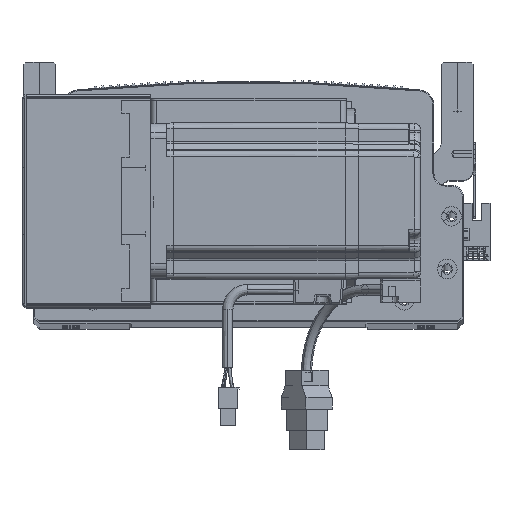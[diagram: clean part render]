
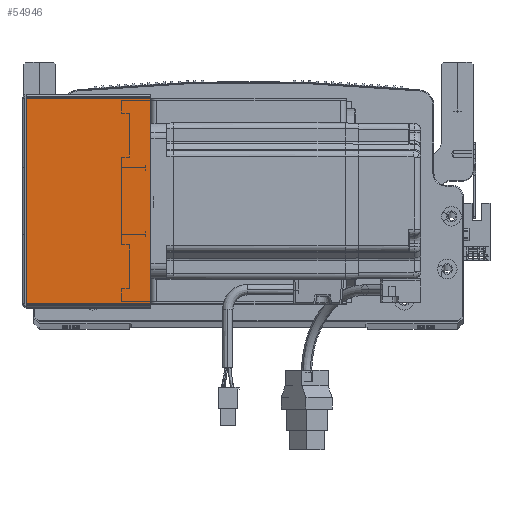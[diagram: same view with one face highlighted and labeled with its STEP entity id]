
A CAD part, top view. The second image highlights one B-rep face of the part: STEP entity #54946.
In plain terms, the highlighted planar face has unit normal (0, 0, 1) as drawn and (0, 0, -1) by its records, which use the part's own axes.
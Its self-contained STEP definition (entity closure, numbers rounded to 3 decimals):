
#722 = DIRECTION ( 'NONE',  ( 1., 0., 0. ) ) ;
#2383 = VERTEX_POINT ( 'NONE', #27641 ) ;
#8895 = EDGE_CURVE ( 'NONE', #34564, #14313, #34321, .T. ) ;
#14313 = VERTEX_POINT ( 'NONE', #86097 ) ;
#14400 = ORIENTED_EDGE ( 'NONE', *, *, #56862, .T. ) ;
#20928 = EDGE_CURVE ( 'NONE', #14313, #2383, #39896, .T. ) ;
#21456 = VECTOR ( 'NONE', #47041, 1000. ) ;
#22317 = DIRECTION ( 'NONE',  ( 0., 0., 1. ) ) ;
#25545 = CARTESIAN_POINT ( 'NONE',  ( 0., 0.707, -205.5 ) ) ;
#26107 = CARTESIAN_POINT ( 'NONE',  ( 64.5, 105.293, -205.5 ) ) ;
#27641 = CARTESIAN_POINT ( 'NONE',  ( 64.5, 0.707, -205.5 ) ) ;
#34321 = LINE ( 'NONE', #61976, #67868 ) ;
#34564 = VERTEX_POINT ( 'NONE', #58866 ) ;
#36434 = AXIS2_PLACEMENT_3D ( 'NONE', #63794, #22317, #77653 ) ;
#39896 = LINE ( 'NONE', #25545, #21456 ) ;
#42367 = FACE_OUTER_BOUND ( 'NONE', #50918, .T. ) ;
#46423 = VECTOR ( 'NONE', #68624, 1000. ) ;
#47041 = DIRECTION ( 'NONE',  ( 1., 0., 0. ) ) ;
#47589 = CARTESIAN_POINT ( 'NONE',  ( 64.5, 0., -205.5 ) ) ;
#49790 = CARTESIAN_POINT ( 'NONE',  ( 0., 105.293, -205.5 ) ) ;
#50918 = EDGE_LOOP ( 'NONE', ( #89702, #77690, #14400, #77674 ) ) ;
#54946 = ADVANCED_FACE ( 'NONE', ( #42367 ), #78528, .F. ) ;
#56862 = EDGE_CURVE ( 'NONE', #88277, #2383, #81051, .T. ) ;
#57903 = VECTOR ( 'NONE', #722, 1000. ) ;
#58866 = CARTESIAN_POINT ( 'NONE',  ( 0.737, 105.293, -205.5 ) ) ;
#61976 = CARTESIAN_POINT ( 'NONE',  ( 0.737, 0., -205.5 ) ) ;
#63794 = CARTESIAN_POINT ( 'NONE',  ( 0., 0., -205.5 ) ) ;
#67868 = VECTOR ( 'NONE', #89799, 1000. ) ;
#68624 = DIRECTION ( 'NONE',  ( 0., -1., 0. ) ) ;
#77653 = DIRECTION ( 'NONE',  ( 1., 0., 0. ) ) ;
#77674 = ORIENTED_EDGE ( 'NONE', *, *, #20928, .F. ) ;
#77690 = ORIENTED_EDGE ( 'NONE', *, *, #79939, .T. ) ;
#78415 = LINE ( 'NONE', #49790, #57903 ) ;
#78528 = PLANE ( 'NONE',  #36434 ) ;
#79939 = EDGE_CURVE ( 'NONE', #34564, #88277, #78415, .T. ) ;
#81051 = LINE ( 'NONE', #47589, #46423 ) ;
#86097 = CARTESIAN_POINT ( 'NONE',  ( 0.737, 0.707, -205.5 ) ) ;
#88277 = VERTEX_POINT ( 'NONE', #26107 ) ;
#89702 = ORIENTED_EDGE ( 'NONE', *, *, #8895, .F. ) ;
#89799 = DIRECTION ( 'NONE',  ( 0., -1., 0. ) ) ;
